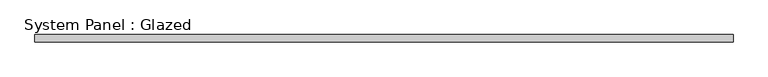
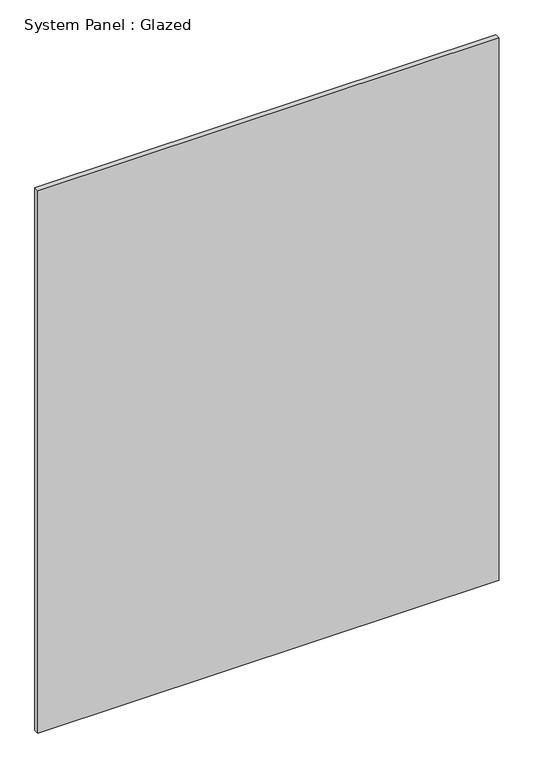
"""IFC4 building model written with IfcOpenShell, lengths in millimetres: plate geometry, System Panel : Glazed."""

import ifcopenshell
import ifcopenshell.guid

model = None  # the IFC model being written
_history = None  # IfcOwnerHistory: only IFC2X3 demands one
_inside = {}  # id of a spatial element -> (the spatial element, [elements in it])
_under = {}  # id of a project, library or spatial element -> (it, [spatial elements below it])
_declared = {}  # id of a project -> (the project, [libraries it declares])
_typed = {}  # id of a type object -> (the type object, [elements of that type])
_made_of = {}  # id of a material, layer set ... -> (it, [elements and type objects made of it])


def new_model(schema):
    """Start an empty IFC model of exactly this schema.

    Asked for "IFC4X3", IfcOpenShell would pick the latest addendum, in which some entities
    have other attributes; the version numbers below select the first issue.
    IFC2X3 requires an IfcOwnerHistory on every rooted entity: one is made here for all.
    """
    global model, _history
    if schema == "IFC4X3":
        model = ifcopenshell.file(schema_version=(4, 3, 0, 0))
    else:
        model = ifcopenshell.file(schema=schema)
    _inside.clear()
    _under.clear()
    _declared.clear()
    _typed.clear()
    _made_of.clear()
    _history = None
    if model.schema == "IFC2X3":
        org = make("IfcOrganization", Name="unknown")
        user = make(
            "IfcPersonAndOrganization",
            ThePerson=make("IfcPerson", FamilyName="unknown"),
            TheOrganization=org,
        )
        app = make(
            "IfcApplication",
            ApplicationDeveloper=org,
            Version="unknown",
            ApplicationFullName="unknown",
            ApplicationIdentifier="unknown",
        )
        _history = make(
            "IfcOwnerHistory",
            OwningUser=user,
            OwningApplication=app,
            ChangeAction="ADDED",
            CreationDate=0,
        )
    return model


def make(cls, **values):
    """One entity of the class cls with the attributes given. An attribute that is None is left unset."""
    return model.create_entity(
        cls, **{name: value for name, value in values.items() if value is not None}
    )


def rooted(cls, **values):
    """An entity with a GlobalId (a new one), such as an element, a storey or a relation."""
    return make(cls, GlobalId=ifcopenshell.guid.new(), OwnerHistory=_history, **values)


def si_unit(unit_type, name, prefix=None):
    """IfcSIUnit, for example si_unit("LENGTHUNIT", "METRE", prefix="MILLI")."""
    return make("IfcSIUnit", UnitType=unit_type, Prefix=prefix, Name=name)


def assignment(units):
    """IfcUnitAssignment: the units of a project."""
    return None if units is None else make("IfcUnitAssignment", Units=units)


def point(xyz):
    """IfcCartesianPoint."""
    return None if xyz is None else make("IfcCartesianPoint", Coordinates=xyz)


def direction(xyz):
    """IfcDirection."""
    return None if xyz is None else make("IfcDirection", DirectionRatios=xyz)


def frame(location, z_axis=None, x_axis=None):
    """IfcAxis2Placement3D, a coordinate frame: its origin and axes. An axis left out is left unset."""
    return make(
        "IfcAxis2Placement3D",
        Location=point(location),
        Axis=direction(z_axis),
        RefDirection=direction(x_axis),
    )


def origin():
    """The frame at (0, 0, 0) with its axes left unset."""
    return frame((0.0, 0.0, 0.0))


def origin_with_axes():
    """The frame at (0, 0, 0) with the z axis (0, 0, 1) and the x axis (1, 0, 0) written out."""
    return frame((0.0, 0.0, 0.0), z_axis=(0.0, 0.0, 1.0), x_axis=(1.0, 0.0, 0.0))


def place(relative_to, where):
    """IfcLocalPlacement: puts the frame where relative to a parent placement (None: the world)."""
    return make(
        "IfcLocalPlacement", PlacementRelTo=relative_to, RelativePlacement=where
    )


def context(
    kind, dimensions, precision=None, world=None, true_north=None, identifier=None
):
    """IfcGeometricRepresentationContext, for example the 3D "Model" context."""
    return make(
        "IfcGeometricRepresentationContext",
        ContextIdentifier=identifier,
        ContextType=kind,
        CoordinateSpaceDimension=dimensions,
        Precision=precision,
        WorldCoordinateSystem=world,
        TrueNorth=true_north,
    )


def project(units=None, contexts=None):
    """IfcProject with its units and contexts."""
    return rooted(
        "IfcProject",
        Name="project",
        RepresentationContexts=contexts,
        UnitsInContext=assignment(units),
    )


def spatial(cls, under=None, at=None, **own):
    """A site, building, storey or space (cls), placed at a placement, below another one or the project."""
    s = rooted(cls, ObjectPlacement=at, **own)
    if under is not None:
        _under.setdefault(under.id(), (under, []))[1].append(s)
    return s


def polyline(points):
    """IfcPolyline through the points."""
    return make("IfcPolyline", Points=[point(p) for p in points])


def outline(outer, holes=None, kind="AREA"):
    """IfcArbitraryClosedProfileDef: a profile drawn as a closed curve; with holes, ...WithVoids."""
    if holes is None:
        return make("IfcArbitraryClosedProfileDef", ProfileType=kind, OuterCurve=outer)
    return make(
        "IfcArbitraryProfileDefWithVoids",
        ProfileType=kind,
        OuterCurve=outer,
        InnerCurves=holes,
    )


def extrude(swept, where, along, depth):
    """IfcExtrudedAreaSolid: the profile swept, set in the frame where, extruded along a direction by depth."""
    return make(
        "IfcExtrudedAreaSolid",
        SweptArea=swept,
        Position=where,
        ExtrudedDirection=direction(along),
        Depth=depth,
    )


def shape(context_of_items, identifier, shape_type, items):
    """IfcShapeRepresentation: the items that make up one representation, for example the "Body"."""
    return make(
        "IfcShapeRepresentation",
        ContextOfItems=context_of_items,
        RepresentationIdentifier=identifier,
        RepresentationType=shape_type,
        Items=items,
    )


def source(mapping_origin, context_of_items, identifier, shape_type, items):
    """IfcRepresentationMap: a shape defined once, which mapped items show again and again."""
    return make(
        "IfcRepresentationMap",
        MappingOrigin=mapping_origin,
        MappedRepresentation=shape(context_of_items, identifier, shape_type, items),
    )


def transform(
    local_origin,
    x_axis=None,
    y_axis=None,
    z_axis=None,
    scale=None,
    scale2=None,
    scale3=None,
    uniform=True,
):
    """IfcCartesianTransformationOperator3D, or its non-uniform kind. x_axis, y_axis, z_axis: its Axis1, 2, 3."""
    if uniform:
        return make(
            "IfcCartesianTransformationOperator3D",
            Axis1=direction(x_axis),
            Axis2=direction(y_axis),
            LocalOrigin=point(local_origin),
            Scale=scale,
            Axis3=direction(z_axis),
        )
    return make(
        "IfcCartesianTransformationOperator3DnonUniform",
        Axis1=direction(x_axis),
        Axis2=direction(y_axis),
        LocalOrigin=point(local_origin),
        Scale=scale,
        Axis3=direction(z_axis),
        Scale2=scale2,
        Scale3=scale3,
    )


def mapped(mapping_source, mapping_target):
    """IfcMappedItem: shows the shape of a source again, moved by a transform."""
    return make(
        "IfcMappedItem", MappingSource=mapping_source, MappingTarget=mapping_target
    )


def made_of(thing, what):
    """Note that an element or type object is made of a material, layer set ...; save() writes the relation."""
    if what is not None:
        _made_of.setdefault(what.id(), (what, []))[1].append(thing)
    return thing


def element(
    cls,
    number,
    at=None,
    inside=None,
    cuts=None,
    type_object=None,
    material=None,
    context=None,
    identifier="Body",
    shape_type=None,
    held_by="IfcProductDefinitionShape",
    body=None,
    shapes=None,
    **own,
):
    """One element of the class cls, such as IfcWall. Its Tag is "e" and its number.

    at: its placement. inside: the storey or other place that contains it. cuts: it is an
    opening in that element (IfcRelVoidsElement). A single representation is given by context,
    identifier, shape_type and body (its items); several are given by shapes. held_by: the class
    of the entity that holds the representations. save() writes the other relations.
    """
    e = rooted(cls, Tag="e%d" % number, ObjectPlacement=at, **own)
    if body is not None:
        shapes = [shape(context, identifier, shape_type, body)]
    if shapes is not None:
        e.Representation = make(held_by, Representations=shapes)
    if inside is not None:
        _inside.setdefault(inside.id(), (inside, []))[1].append(e)
    if cuts is not None:
        rooted(
            "IfcRelVoidsElement", RelatingBuildingElement=cuts, RelatedOpeningElement=e
        )
    if type_object is not None:
        _typed.setdefault(type_object.id(), (type_object, []))[1].append(e)
    return made_of(e, material)


def aggregate(whole, parts):
    """IfcRelAggregates: a whole, such as a stair, and the parts it consists of."""
    return rooted("IfcRelAggregates", RelatingObject=whole, RelatedObjects=parts)


def save(model, path):
    """Write the relations noted so far, then the file.

    IfcRelAggregates (storeys below a building ...), IfcRelContainedInSpatialStructure (elements
    in a storey), IfcRelDefinesByType, IfcRelAssociatesMaterial and IfcRelDeclares: one each for
    every whole, place, type object, material and project.
    """
    for whole, parts in _under.values():
        aggregate(whole, parts)
    for where, things in _inside.values():
        rooted(
            "IfcRelContainedInSpatialStructure",
            RelatedElements=things,
            RelatingStructure=where,
        )
    for kind, things in _typed.values():
        rooted("IfcRelDefinesByType", RelatedObjects=things, RelatingType=kind)
    for what, things in _made_of.values():
        rooted("IfcRelAssociatesMaterial", RelatedObjects=things, RelatingMaterial=what)
    for by, libraries in _declared.values():
        rooted("IfcRelDeclares", RelatingContext=by, RelatedDefinitions=libraries)
    model.write(path)


def system_panel_glazed_c811d781(model_context):
    return source(origin(), model_context, "Body", "SweptSolid", [
        extrude(outline(polyline([(1187.4499999, -44.45), (-1187.4499999, -44.45), (-1187.4499999, -19.05), (1187.4499999, -19.05), (1187.4499999, -44.45)])), origin_with_axes(), (0.0, 0.0, 1.0), 2952.75),
    ])


if __name__ == "__main__":
    model = new_model("IFC4")
    model_context = context("Model", 3, world=origin())
    ifc_project = project(units=[si_unit("LENGTHUNIT", "METRE", prefix="MILLI")], contexts=[model_context])
    site = spatial("IfcSite", under=ifc_project)
    building = spatial("IfcBuilding", under=site)
    placement = place(None, origin())
    system_panel_glazed_shape = system_panel_glazed_c811d781(model_context)
    element("IfcPlate", 1, ObjectType="System Panel : Glazed", at=placement, inside=building, context=model_context, shape_type="MappedRepresentation", body=[
        mapped(system_panel_glazed_shape, transform((0.0, 0.0, 0.0), x_axis=(1.0, 0.0, 0.0), y_axis=(0.0, 1.0, 0.0), z_axis=(0.0, 0.0, 1.0))),
    ])
    save(model, "model.ifc")
